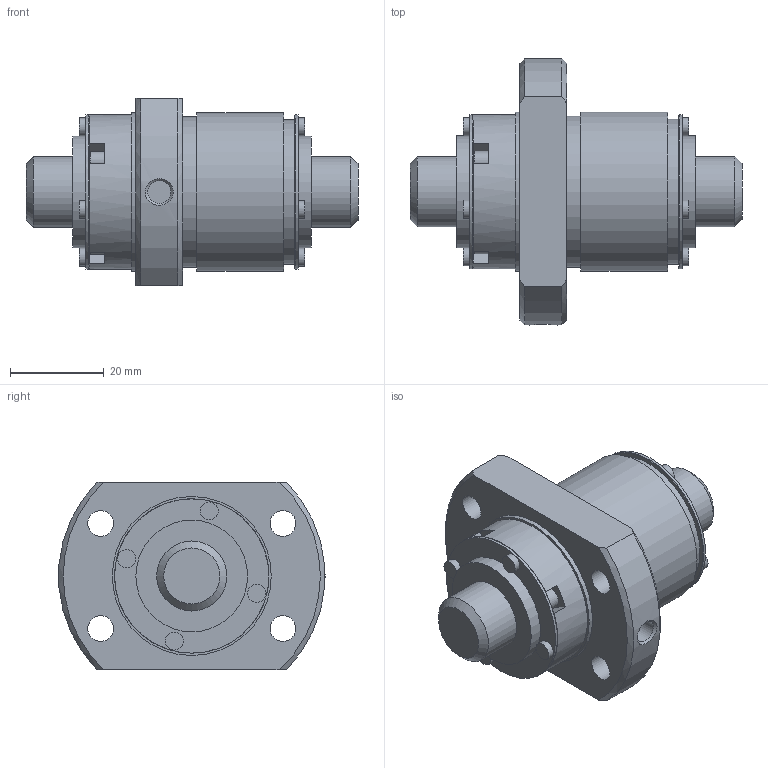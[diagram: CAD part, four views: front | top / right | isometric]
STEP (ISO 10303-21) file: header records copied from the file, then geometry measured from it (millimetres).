
FILE_DESCRIPTION(/* description */ ('STEP AP203'),/* implementation_level */ '2;1');
FILE_NAME(/* name */ 'BLK1510-5.6ZZG1+71LC3_N0_1300',/* time_stamp */ '2025-01-16T07:04:22+01:00',/* author */ ('License CC BY-ND 4.0'),/* organization */ ('CADENAS'),/* preprocessor_version */ 'ST-DEVELOPER v19.3',/* originating_system */ 'PARTsolutions',/* authorisation */ ' ');
FILE_SCHEMA (('CONFIG_CONTROL_DESIGN','TECHNICAL_DATA_PACKAGING'));
Length unit declared in the file: millimetre
Products named in the file (3): BLK1510-5.6ZZG1+71LC3_N0_1300; NZZ0130BLK1510-5.60Shaft; NRR0130BLK1510-5.6Nut
Assembly tree (2 placements, depth 2):
  BLK1510-5.6ZZG1+71LC3_N0_1300
    NZZ0130BLK1510-5.60Shaft
    NRR0130BLK1510-5.6Nut
Bounding box: 71 x 56.89 x 40 mm (x, y, z)
Volume: 56157.7 mm3; surface area: 17462.5 mm2
Topology: 2 solids, 2 shells, 154 faces, 343 edges, 214 vertices
Faces by surface type: plane 95, cylinder 38, cone 17, torus 4
Full cylindrical faces by diameter (mm): 2 x4, 3.85 x8, 4.5 x4, 4.917 x1, 5.5 x4, 15 x2, 23.9 x2, 31 x1, 32.3 x1, 33 x3, 34 x2
Entity records: 4036 total; most frequent: CARTESIAN_POINT 769, DIRECTION 686, ORIENTED_EDGE 558, AXIS2_PLACEMENT_3D 283, EDGE_CURVE 279, FACE_BOUND 238, EDGE_LOOP 234, VERTEX_POINT 203
